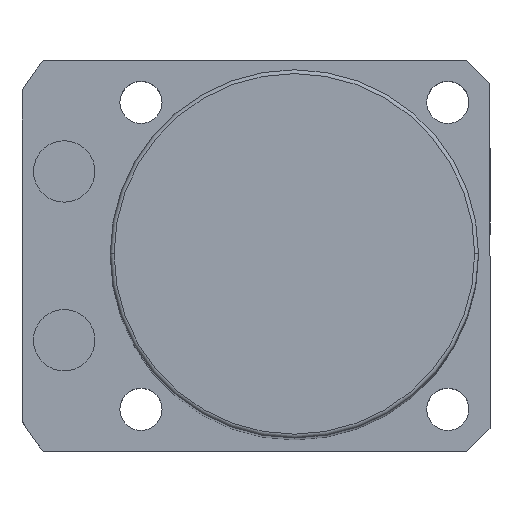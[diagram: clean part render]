
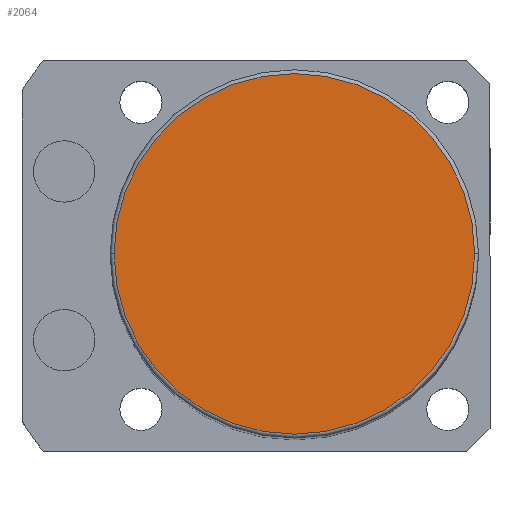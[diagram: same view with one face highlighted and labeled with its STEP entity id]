
A CAD part, top view. The second image highlights one B-rep face of the part: STEP entity #2064.
In plain terms, the highlighted planar face has unit normal (0, 0, 1).
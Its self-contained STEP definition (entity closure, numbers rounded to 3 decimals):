
#127 = AXIS2_PLACEMENT_3D ( 'NONE', #1017, #2293, #1007 ) ;
#179 = VERTEX_POINT ( 'NONE', #450 ) ;
#320 = AXIS2_PLACEMENT_3D ( 'NONE', #1801, #1636, #1607 ) ;
#346 = ORIENTED_EDGE ( 'NONE', *, *, #1901, .T. ) ;
#358 = EDGE_LOOP ( 'NONE', ( #1714, #346 ) ) ;
#450 = CARTESIAN_POINT ( 'NONE',  ( 23.5, 0., 156. ) ) ;
#620 = CARTESIAN_POINT ( 'NONE',  ( 0., 0., 156. ) ) ;
#877 = PLANE ( 'NONE',  #320 ) ;
#1007 = DIRECTION ( 'NONE',  ( 1., 0., 0. ) ) ;
#1017 = CARTESIAN_POINT ( 'NONE',  ( 0., 0., 156. ) ) ;
#1236 = AXIS2_PLACEMENT_3D ( 'NONE', #620, #2112, #1370 ) ;
#1248 = EDGE_CURVE ( 'NONE', #179, #1997, #1847, .T. ) ;
#1357 = CIRCLE ( 'NONE', #1236, 23.5 ) ;
#1370 = DIRECTION ( 'NONE',  ( 1., 0., 0. ) ) ;
#1592 = CARTESIAN_POINT ( 'NONE',  ( -23.5, 0., 156. ) ) ;
#1607 = DIRECTION ( 'NONE',  ( 1., 0., 0. ) ) ;
#1636 = DIRECTION ( 'NONE',  ( 0., 0., 1. ) ) ;
#1672 = FACE_OUTER_BOUND ( 'NONE', #358, .T. ) ;
#1714 = ORIENTED_EDGE ( 'NONE', *, *, #1248, .T. ) ;
#1801 = CARTESIAN_POINT ( 'NONE',  ( 0., 0., 156. ) ) ;
#1847 = CIRCLE ( 'NONE', #127, 23.5 ) ;
#1901 = EDGE_CURVE ( 'NONE', #1997, #179, #1357, .T. ) ;
#1997 = VERTEX_POINT ( 'NONE', #1592 ) ;
#2064 = ADVANCED_FACE ( 'NONE', ( #1672 ), #877, .T. ) ;
#2112 = DIRECTION ( 'NONE',  ( 0., 0., 1. ) ) ;
#2293 = DIRECTION ( 'NONE',  ( 0., 0., 1. ) ) ;
